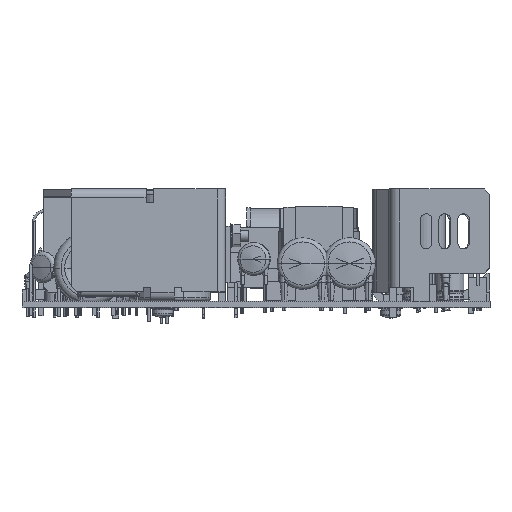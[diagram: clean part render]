
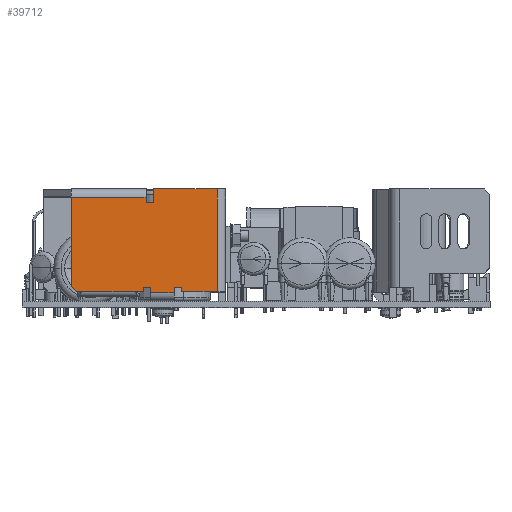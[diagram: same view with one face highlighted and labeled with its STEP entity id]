
A CAD part, top view. The second image highlights one B-rep face of the part: STEP entity #39712.
In plain terms, the highlighted planar face has unit normal (0, 0, 1) as drawn and (1, 0, 0) by its records, which use the part's own axes.
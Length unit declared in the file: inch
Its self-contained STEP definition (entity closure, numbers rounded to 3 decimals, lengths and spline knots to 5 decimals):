
#5840 = VERTEX_POINT ( 'NONE', #44734 ) ;
#5841 = VERTEX_POINT ( 'NONE', #44691 ) ;
#12775 = LINE ( 'NONE', #14017, #12785 ) ;
#12785 = VECTOR ( 'NONE', #14021, 39.37008 ) ;
#12786 = LINE ( 'NONE', #14023, #12789 ) ;
#12788 = LINE ( 'NONE', #14028, #12792 ) ;
#12789 = VECTOR ( 'NONE', #14025, 39.37008 ) ;
#12792 = VECTOR ( 'NONE', #14024, 39.37008 ) ;
#12805 = LINE ( 'NONE', #14045, #12808 ) ;
#12808 = VECTOR ( 'NONE', #14047, 39.37008 ) ;
#12816 = LINE ( 'NONE', #14058, #12819 ) ;
#12819 = VECTOR ( 'NONE', #14060, 39.37008 ) ;
#12831 = LINE ( 'NONE', #14075, #12834 ) ;
#12834 = VECTOR ( 'NONE', #14077, 39.37008 ) ;
#12842 = LINE ( 'NONE', #14084, #12844 ) ;
#12844 = VECTOR ( 'NONE', #14078, 39.37008 ) ;
#12858 = LINE ( 'NONE', #14115, #12865 ) ;
#12860 = LINE ( 'NONE', #14108, #12862 ) ;
#12862 = VECTOR ( 'NONE', #14103, 39.37008 ) ;
#12865 = VECTOR ( 'NONE', #14109, 39.37008 ) ;
#12866 = LINE ( 'NONE', #14124, #12876 ) ;
#12876 = VECTOR ( 'NONE', #14131, 39.37008 ) ;
#12885 = LINE ( 'NONE', #14142, #12888 ) ;
#12888 = VECTOR ( 'NONE', #14144, 39.37008 ) ;
#12896 = LINE ( 'NONE', #14163, #12899 ) ;
#12899 = VECTOR ( 'NONE', #14167, 39.37008 ) ;
#12906 = LINE ( 'NONE', #14222, #12908 ) ;
#12908 = VECTOR ( 'NONE', #14168, 39.37008 ) ;
#12921 = LINE ( 'NONE', #14272, #12924 ) ;
#12924 = VECTOR ( 'NONE', #14274, 39.37008 ) ;
#12932 = LINE ( 'NONE', #14300, #12935 ) ;
#12934 = LINE ( 'NONE', #14305, #12937 ) ;
#12935 = VECTOR ( 'NONE', #14303, 39.37008 ) ;
#12937 = VECTOR ( 'NONE', #14308, 39.37008 ) ;
#12940 = LINE ( 'NONE', #14317, #12943 ) ;
#12943 = VECTOR ( 'NONE', #14320, 39.37008 ) ;
#14017 = CARTESIAN_POINT ( 'NONE',  ( 5.21917, 1.011, -3.93951 ) ) ;
#14021 = DIRECTION ( 'NONE',  ( 0., 0., -1. ) ) ;
#14023 = CARTESIAN_POINT ( 'NONE',  ( 5.21917, -0.011, -3.93951 ) ) ;
#14024 = DIRECTION ( 'NONE',  ( 0., 0., 1. ) ) ;
#14025 = DIRECTION ( 'NONE',  ( 0., 0., 1. ) ) ;
#14028 = CARTESIAN_POINT ( 'NONE',  ( 5.21917, 0.05, 0.2 ) ) ;
#14045 = CARTESIAN_POINT ( 'NONE',  ( 5.21917, 0., 0.12 ) ) ;
#14047 = DIRECTION ( 'NONE',  ( 0., 1., 0. ) ) ;
#14058 = CARTESIAN_POINT ( 'NONE',  ( 5.21917, 1.1, 0.42 ) ) ;
#14060 = DIRECTION ( 'NONE',  ( 0., 1., 0. ) ) ;
#14075 = CARTESIAN_POINT ( 'NONE',  ( 5.21917, 0.95, 0.5 ) ) ;
#14077 = DIRECTION ( 'NONE',  ( 0., 0., -1. ) ) ;
#14078 = DIRECTION ( 'NONE',  ( 0., -1., 0. ) ) ;
#14084 = CARTESIAN_POINT ( 'NONE',  ( 5.21917, 1.29975, 0.5 ) ) ;
#14103 = DIRECTION ( 'NONE',  ( 0., 1., 0. ) ) ;
#14108 = CARTESIAN_POINT ( 'NONE',  ( 5.21917, 0.06, 1.3 ) ) ;
#14109 = DIRECTION ( 'NONE',  ( 0., 0.707, 0.707 ) ) ;
#14115 = CARTESIAN_POINT ( 'NONE',  ( 5.21917, 0.06, 1.3 ) ) ;
#14124 = CARTESIAN_POINT ( 'NONE',  ( 5.21917, 0., 1.24 ) ) ;
#14131 = DIRECTION ( 'NONE',  ( 0., 0., 1. ) ) ;
#14142 = CARTESIAN_POINT ( 'NONE',  ( 5.21917, 0., 0.53 ) ) ;
#14144 = DIRECTION ( 'NONE',  ( 0., -1., 0. ) ) ;
#14163 = CARTESIAN_POINT ( 'NONE',  ( 5.21917, 0.05, 0.53 ) ) ;
#14167 = DIRECTION ( 'NONE',  ( 0., 0., 1. ) ) ;
#14168 = DIRECTION ( 'NONE',  ( 0., 1., 0. ) ) ;
#14222 = CARTESIAN_POINT ( 'NONE',  ( 5.21917, -0.25276, 0.45 ) ) ;
#14272 = CARTESIAN_POINT ( 'NONE',  ( 5.21917, -0.25276, 0.2 ) ) ;
#14274 = DIRECTION ( 'NONE',  ( 0., -1., 0. ) ) ;
#14300 = CARTESIAN_POINT ( 'NONE',  ( 5.21917, 0., 0.12 ) ) ;
#14303 = DIRECTION ( 'NONE',  ( 0., 0., 1. ) ) ;
#14305 = CARTESIAN_POINT ( 'NONE',  ( 5.21917, 1.1, 0.42 ) ) ;
#14308 = DIRECTION ( 'NONE',  ( 0., 0., -1. ) ) ;
#14317 = CARTESIAN_POINT ( 'NONE',  ( 5.21917, 0.15, -0.261 ) ) ;
#14320 = DIRECTION ( 'NONE',  ( 0., 1., 0. ) ) ;
#24915 = CARTESIAN_POINT ( 'NONE',  ( 5.21917, 1.011, 1.3 ) ) ;
#24936 = CARTESIAN_POINT ( 'NONE',  ( 5.21917, 1.011, 0.5 ) ) ;
#24938 = CARTESIAN_POINT ( 'NONE',  ( 5.21917, -0.011, 0.2 ) ) ;
#24942 = CARTESIAN_POINT ( 'NONE',  ( 5.21917, 0.05, 0.2 ) ) ;
#25578 = CARTESIAN_POINT ( 'NONE',  ( 5.21917, 0.95, 0.5 ) ) ;
#25582 = CARTESIAN_POINT ( 'NONE',  ( 5.21917, 0.05, 0.45 ) ) ;
#25610 = CARTESIAN_POINT ( 'NONE',  ( 5.21917, 0.06, 1.3 ) ) ;
#25622 = CARTESIAN_POINT ( 'NONE',  ( 5.21917, 0., -0.261 ) ) ;
#25624 = CARTESIAN_POINT ( 'NONE',  ( 5.21917, 1.1, -0.261 ) ) ;
#25632 = CARTESIAN_POINT ( 'NONE',  ( 5.21917, 0., 1.24 ) ) ;
#25645 = CARTESIAN_POINT ( 'NONE',  ( 5.21917, 0., 0.12 ) ) ;
#25655 = CARTESIAN_POINT ( 'NONE',  ( 5.21917, 0.05, 0.12 ) ) ;
#25664 = CARTESIAN_POINT ( 'NONE',  ( 5.21917, 0., 0.53 ) ) ;
#25667 = CARTESIAN_POINT ( 'NONE',  ( 5.21917, 0.95, 0.42 ) ) ;
#25678 = CARTESIAN_POINT ( 'NONE',  ( 5.21917, 0.05, 0.53 ) ) ;
#36847 = FACE_OUTER_BOUND ( 'NONE', #76611, .T. ) ;
#38530 = PLANE ( 'NONE',  #69368 ) ;
#38533 = CARTESIAN_POINT ( 'NONE',  ( 5.21917, 0.15, -3.93951 ) ) ;
#38551 = DIRECTION ( 'NONE',  ( -1., 0., 0. ) ) ;
#38553 = DIRECTION ( 'NONE',  ( 0., 0., 1. ) ) ;
#39712 = ADVANCED_FACE ( 'NONE', ( #36847 ), #38530, .F. ) ;
#44691 = CARTESIAN_POINT ( 'NONE',  ( 5.21917, -0.011, 0.45 ) ) ;
#44734 = CARTESIAN_POINT ( 'NONE',  ( 5.21917, 1.1, 0.42 ) ) ;
#69368 = AXIS2_PLACEMENT_3D ( 'NONE', #38533, #38551, #38553 ) ;
#72025 = VERTEX_POINT ( 'NONE', #24915 ) ;
#72038 = VERTEX_POINT ( 'NONE', #24936 ) ;
#72039 = VERTEX_POINT ( 'NONE', #24938 ) ;
#72041 = VERTEX_POINT ( 'NONE', #24942 ) ;
#72470 = VERTEX_POINT ( 'NONE', #25578 ) ;
#72472 = VERTEX_POINT ( 'NONE', #25582 ) ;
#72501 = VERTEX_POINT ( 'NONE', #25610 ) ;
#72505 = VERTEX_POINT ( 'NONE', #25622 ) ;
#72513 = VERTEX_POINT ( 'NONE', #25624 ) ;
#72519 = VERTEX_POINT ( 'NONE', #25632 ) ;
#72522 = VERTEX_POINT ( 'NONE', #25645 ) ;
#72530 = VERTEX_POINT ( 'NONE', #25655 ) ;
#72540 = VERTEX_POINT ( 'NONE', #25667 ) ;
#72545 = VERTEX_POINT ( 'NONE', #25664 ) ;
#72549 = VERTEX_POINT ( 'NONE', #25678 ) ;
#76611 = EDGE_LOOP ( 'NONE', ( #88603, #88604, #88605, #88606, #88607, #88608, #88609, #88610, #88611, #88612, #88613, #88614, #88615, #88616, #88617, #88618, #88619 ) ) ;
#88603 = ORIENTED_EDGE ( 'NONE', *, *, #90840, .F. ) ;
#88604 = ORIENTED_EDGE ( 'NONE', *, *, #90914, .F. ) ;
#88605 = ORIENTED_EDGE ( 'NONE', *, *, #90842, .F. ) ;
#88606 = ORIENTED_EDGE ( 'NONE', *, *, #90850, .F. ) ;
#88607 = ORIENTED_EDGE ( 'NONE', *, *, #90920, .F. ) ;
#88608 = ORIENTED_EDGE ( 'NONE', *, *, #90924, .T. ) ;
#88609 = ORIENTED_EDGE ( 'NONE', *, *, #90921, .F. ) ;
#88610 = ORIENTED_EDGE ( 'NONE', *, *, #90856, .F. ) ;
#88611 = ORIENTED_EDGE ( 'NONE', *, *, #90864, .F. ) ;
#88612 = ORIENTED_EDGE ( 'NONE', *, *, #90870, .F. ) ;
#88613 = ORIENTED_EDGE ( 'NONE', *, *, #90838, .F. ) ;
#88614 = ORIENTED_EDGE ( 'NONE', *, *, #90880, .F. ) ;
#88615 = ORIENTED_EDGE ( 'NONE', *, *, #90882, .F. ) ;
#88616 = ORIENTED_EDGE ( 'NONE', *, *, #90888, .F. ) ;
#88617 = ORIENTED_EDGE ( 'NONE', *, *, #90894, .F. ) ;
#88618 = ORIENTED_EDGE ( 'NONE', *, *, #90900, .F. ) ;
#88619 = ORIENTED_EDGE ( 'NONE', *, *, #90906, .F. ) ;
#90838 = EDGE_CURVE ( 'NONE', #72025, #72038, #12775, .T. ) ;
#90840 = EDGE_CURVE ( 'NONE', #72039, #5841, #12786, .T. ) ;
#90842 = EDGE_CURVE ( 'NONE', #72530, #72041, #12788, .T. ) ;
#90850 = EDGE_CURVE ( 'NONE', #72522, #72530, #12805, .T. ) ;
#90856 = EDGE_CURVE ( 'NONE', #72540, #5840, #12816, .T. ) ;
#90864 = EDGE_CURVE ( 'NONE', #72470, #72540, #12831, .T. ) ;
#90870 = EDGE_CURVE ( 'NONE', #72038, #72470, #12842, .T. ) ;
#90880 = EDGE_CURVE ( 'NONE', #72501, #72025, #12860, .T. ) ;
#90882 = EDGE_CURVE ( 'NONE', #72519, #72501, #12858, .T. ) ;
#90888 = EDGE_CURVE ( 'NONE', #72545, #72519, #12866, .T. ) ;
#90894 = EDGE_CURVE ( 'NONE', #72549, #72545, #12885, .T. ) ;
#90900 = EDGE_CURVE ( 'NONE', #72472, #72549, #12896, .T. ) ;
#90906 = EDGE_CURVE ( 'NONE', #5841, #72472, #12906, .T. ) ;
#90914 = EDGE_CURVE ( 'NONE', #72041, #72039, #12921, .T. ) ;
#90920 = EDGE_CURVE ( 'NONE', #72505, #72522, #12932, .T. ) ;
#90921 = EDGE_CURVE ( 'NONE', #5840, #72513, #12934, .T. ) ;
#90924 = EDGE_CURVE ( 'NONE', #72505, #72513, #12940, .T. ) ;
